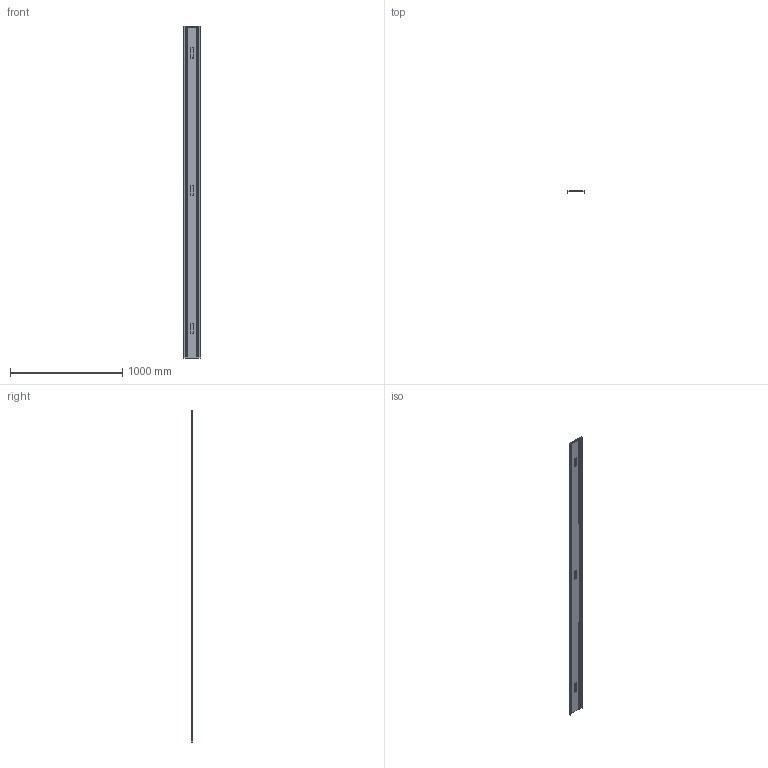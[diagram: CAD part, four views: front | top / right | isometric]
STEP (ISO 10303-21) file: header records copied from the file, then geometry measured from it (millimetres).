
FILE_DESCRIPTION (( 'STEP AP203' ), '1' );
FILE_NAME ('TERE 150.STEP', '2020-02-12T11:57:50', ( '' ), ( '' ), 'SwSTEP 2.0', 'SolidWorks 2019', '' );
FILE_SCHEMA (( 'CONFIG_CONTROL_DESIGN' ));
Length unit declared in the file: millimetre
Products named in the file (1): TERE 150
Bounding box: 152 x 15 x 2960 mm (x, y, z)
Surface area: 1083360.2 mm2 (no closed solid volume)
Topology: 0 solids, 8 shells, 649 faces, 1749 edges, 1137 vertices
Faces by surface type: plane 356, bspline 173, cylinder 96, torus 24
Entity records: 26635 total; most frequent: CARTESIAN_POINT 11272, ORIENTED_EDGE 3430, DIRECTION 2664, EDGE_CURVE 1749, VERTEX_POINT 1137, VECTOR 1092, LINE 1092, AXIS2_PLACEMENT_3D 786
